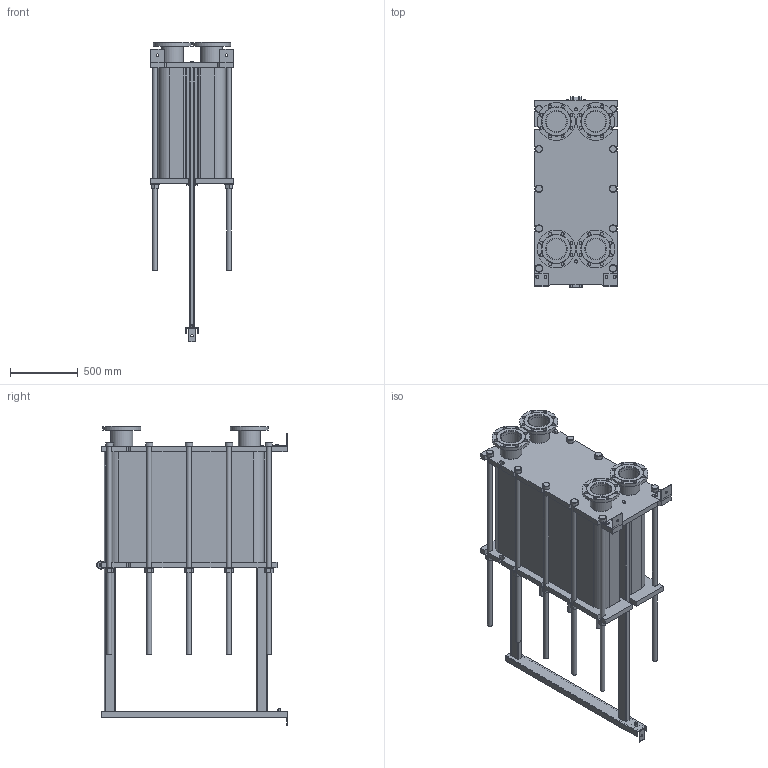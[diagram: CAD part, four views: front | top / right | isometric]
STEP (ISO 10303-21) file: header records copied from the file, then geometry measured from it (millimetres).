
FILE_DESCRIPTION(/* description */ (''),/* implementation_level */ '2;1');
FILE_NAME(/* name */ 'C:\Users\zhuro\Desktop\ENCO\TO\ЭН-041\ЭН-0,5-041-236-1.stp',/* time_stamp */ '2022-06-06T11:08:11+03:00',/* author */ ('zhuro'),/* organization */ (''),/* preprocessor_version */ 'ST-DEVELOPER v18.1',/* originating_system */ 'Autodesk Inventor 2022',/* authorisation */ '');
FILE_SCHEMA (('AUTOMOTIVE_DESIGN { 1 0 10303 214 3 1 1 }'));
Length unit declared in the file: millimetre
Products named in the file (1): ЭН-0,5-041-236-1
Bounding box: 610 x 1406.5 x 2210 mm (x, y, z)
Volume: 547966652.3 mm3; surface area: 12023199.6 mm2
Topology: 52 solids, 52 shells, 711 faces, 1696 edges, 1094 vertices
Faces by surface type: plane 487, cylinder 177, cone 41, torus 6
Full cylindrical faces by diameter (mm): 8 x4, 10 x2, 16 x8, 18 x3, 22 x32, 36 x24, 50 x1, 54 x10, 60 x12, 151 x4, 161 x8, 280 x4
Entity records: 22667 total; most frequent: CARTESIAN_POINT 5230, DIRECTION 3644, ORIENTED_EDGE 3392, EDGE_CURVE 1696, AXIS2_PLACEMENT_3D 1272, LINE 1100, VECTOR 1100, VERTEX_POINT 1094
